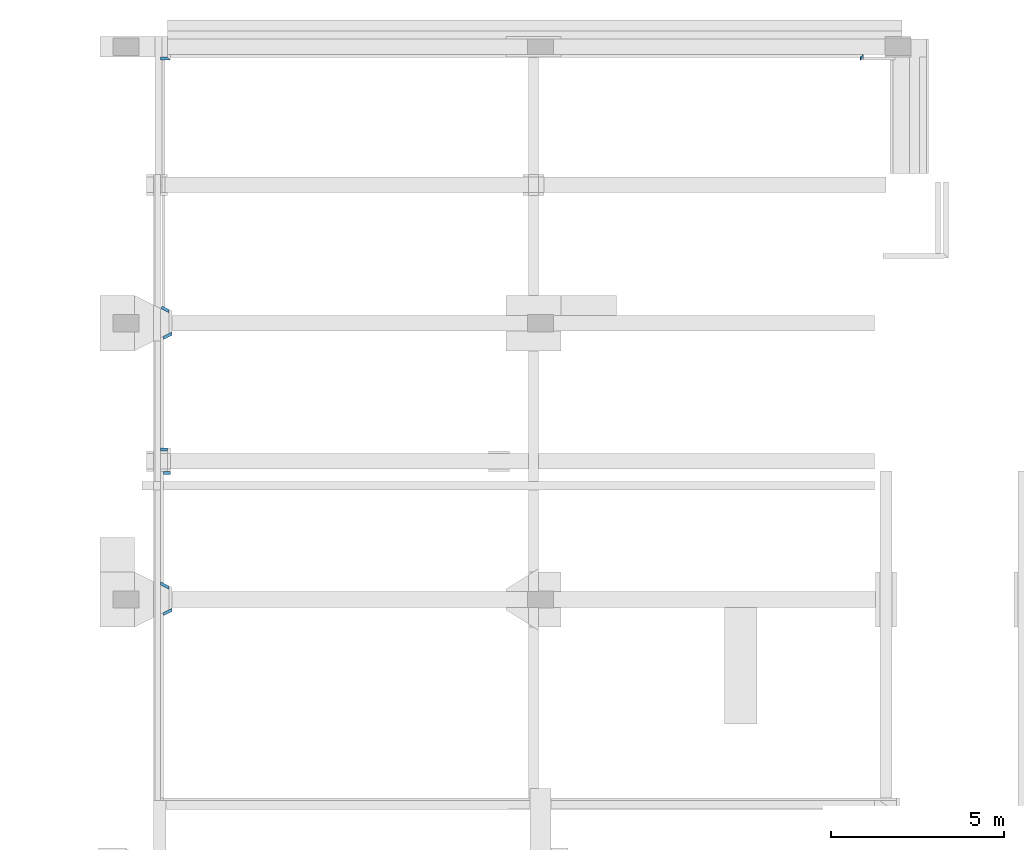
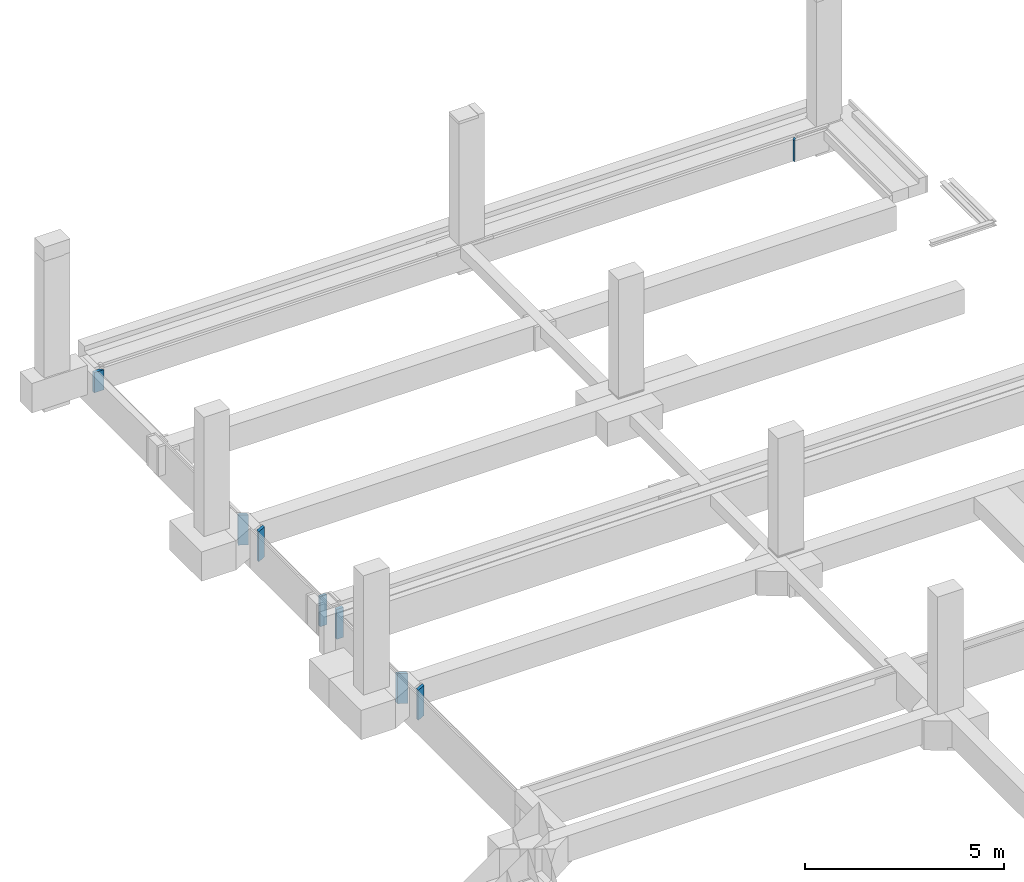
# One storey, part 15 of 17: 8 walls.
"""IFC2X3 building model written with IfcOpenShell, lengths in millimetres."""

from ifc_helpers import new_model, entity, si_unit, converted_unit, derived_unit, money_unit, direction, frame, origin_with_axes, place, context, subcontext, project, spatial, faceted_brep, material, type_object, element, save


model = new_model("IFC2X3")

# Units and contexts
model_context = context("Model", 3, precision=0.01, world=origin_with_axes(), true_north=direction((0.0, 1.0)))
body_context = subcontext(model_context, "Body", "Model", "MODEL_VIEW")
ifc_project = project(units=[si_unit("LENGTHUNIT", "METRE", prefix="MILLI"), si_unit("AREAUNIT", "SQUARE_METRE"), si_unit("VOLUMEUNIT", "CUBIC_METRE"), converted_unit("PLANEANGLEUNIT", "DEGREE", entity("IfcPlaneAngleMeasure", 0.0174532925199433), si_unit("PLANEANGLEUNIT", "RADIAN"), dimensions=[0, 0, 0, 0, 0, 0, 0]), money_unit("EUR"), converted_unit("TIMEUNIT", "Year", entity("IfcTimeMeasure", 31557600.0), si_unit("TIMEUNIT", "SECOND"), dimensions=[0, 0, 1, 0, 0, 0, 0]), si_unit("MASSUNIT", "GRAM", prefix="KILO"), si_unit("THERMODYNAMICTEMPERATUREUNIT", "DEGREE_CELSIUS"), si_unit("LUMINOUSINTENSITYUNIT", "LUMEN"), si_unit("ENERGYUNIT", "JOULE", prefix="MEGA"), derived_unit("THERMALCONDUCTANCEUNIT", [(si_unit("POWERUNIT", "WATT"), 1), (si_unit("LENGTHUNIT", "METRE"), -1), (si_unit("THERMODYNAMICTEMPERATUREUNIT", "KELVIN"), -1)]), derived_unit("SPECIFICHEATCAPACITYUNIT", [(si_unit("ENERGYUNIT", "JOULE"), 1), (si_unit("MASSUNIT", "GRAM", prefix="KILO"), -1), (si_unit("THERMODYNAMICTEMPERATUREUNIT", "KELVIN"), -1)]), derived_unit("MASSDENSITYUNIT", [(si_unit("MASSUNIT", "GRAM", prefix="KILO"), 1), (si_unit("VOLUMEUNIT", "CUBIC_METRE"), -1)])], contexts=[model_context])

# Site, building, storey
site_placement = place(None, origin_with_axes())
site = spatial("IfcSite", under=ifc_project, at=site_placement, Name="<site naam>", CompositionType="ELEMENT")
building_placement = place(site_placement, origin_with_axes())
building = spatial("IfcBuilding", under=site, at=building_placement, Name="<Naam gebouw>", CompositionType="ELEMENT")
storey_placement = place(building_placement, frame((0.0, 0.0, -1100.0), z_axis=(0.0, 0.0, 1.0), x_axis=(1.0, 0.0, 0.0)))
storey = spatial("IfcBuildingStorey", under=building, at=storey_placement, Name="-1 Fundering", CompositionType="ELEMENT", Elevation=-1100.0)

# Walls
ifc_material = material(Name="ALG - ISOLATIE")
wall_type = type_object("IfcWallType", Name="ALG - ISOLATIE 85", PredefinedType="NOTDEFINED")
wall_1_placement = place(storey_placement, frame((-8759.082491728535, 8300.000000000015, -100.0000000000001), z_axis=(0.0, 0.0, 1.0), x_axis=(-0.8944273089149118, 0.4472133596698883, 0.0)))
element("IfcWall", 1, at=wall_1_placement, inside=storey, type_object=wall_type, material=ifc_material, Name="21_Binnenwand_ALG", context=body_context, shape_type="Brep", body=[
    faceted_brep([(42.4999719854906, -84.99999999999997, 0.0), (311.853898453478, -84.99999999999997, 0.0), (311.853898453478, -84.99999999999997, 920.0000000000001), (42.4999719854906, -84.99999999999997, 920.0000000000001), (0.0, 0.0, 0.0), (269.3539264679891, 0.0, 0.0), (269.3539264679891, 0.0, 920.0000000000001), (0.0, 0.0, 920.0000000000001)], [[[0, 1, 2, 3]], [[0, 4, 5, 1]], [[1, 5, 6, 2]], [[2, 6, 7, 3]], [[4, 0, 3, 7]], [[5, 4, 7, 6]]]),
])
wall_2_placement = place(storey_placement, frame((-8999.999999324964, 11700.00007911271, -100.0000000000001), z_axis=(0.0, 0.0, 1.0), x_axis=(0.9999999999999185, -4.038061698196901e-07, 0.0)))
element("IfcWall", 2, at=wall_2_placement, inside=storey, type_object=wall_type, material=ifc_material, Name="21_Binnenwand_ALG", context=body_context, shape_type="Brep", body=[
    faceted_brep([(280.9175082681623, 0.0, 0.0), (85.00000000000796, 0.0, 0.0), (85.00000000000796, 0.0, 920.0000000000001), (280.9175082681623, 0.0, 920.0000000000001), (85.00003432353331, -85.00000000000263, 0.0), (280.9175425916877, -85.00000000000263, 0.0), (85.00003432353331, -85.00000000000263, 920.0000000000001), (280.9175425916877, -85.00000000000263, 920.0000000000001)], [[[0, 1, 2, 3]], [[4, 1, 0, 5]], [[1, 4, 6, 2]], [[2, 6, 7, 3]], [[5, 0, 3, 7]], [[4, 5, 7, 6]]]),
])
wall_3_placement = place(storey_placement, frame((-8804.082491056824, 12300.00000000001, -100.0000000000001), z_axis=(0.0, 0.0, 1.0), x_axis=(-0.9999999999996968, -7.78800692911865e-07, 0.0)))
element("IfcWall", 3, at=wall_3_placement, inside=storey, type_object=wall_type, material=ifc_material, Name="21_Binnenwand_ALG", context=body_context, shape_type="Brep", body=[
    faceted_brep([(-6.619805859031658e-05, -85.00000000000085, 0.0), (195.9174420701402, -85.00000000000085, 0.0), (195.9174420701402, -85.00000000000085, 920.0000000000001), (-6.619805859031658e-05, -85.00000000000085, 920.0000000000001), (0.0, 0.0, 0.0), (195.9175082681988, 0.0, 0.0), (195.9175082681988, 0.0, 920.0000000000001), (0.0, 0.0, 920.0000000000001)], [[[0, 1, 2, 3]], [[0, 4, 5, 1]], [[1, 5, 6, 2]], [[2, 6, 7, 3]], [[4, 0, 3, 7]], [[5, 4, 7, 6]]]),
])
wall_4_placement = place(storey_placement, frame((-8999.999999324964, 15579.5412462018, -100.0000000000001), z_axis=(0.0, 0.0, 1.0), x_axis=(0.8944271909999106, 0.4472135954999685, 0.0)))
element("IfcWall", 4, at=wall_4_placement, inside=storey, type_object=wall_type, material=ifc_material, Name="21_Binnenwand_ALG", context=body_context, shape_type="Brep", body=[
    faceted_brep([(364.3868510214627, 0.0, 0.0), (95.0328890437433, 0.0, 0.0), (95.0328890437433, 0.0, 920.0000000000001), (364.3868510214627, 0.0, 920.0000000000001), (52.53288904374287, -84.9999999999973, 0.0), (321.8868510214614, -84.9999999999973, 0.0), (52.53288904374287, -84.9999999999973, 920.0000000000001), (321.8868510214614, -84.9999999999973, 920.0000000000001)], [[[0, 1, 2, 3]], [[4, 1, 0, 5]], [[1, 4, 6, 2]], [[2, 6, 7, 3]], [[5, 0, 3, 7]], [[4, 5, 7, 6]]]),
])
wall_5_placement = place(storey_placement, frame((-8759.082491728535, 16300.00000000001, -100.0000000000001), z_axis=(0.0, 0.0, 1.0), x_axis=(-0.8944271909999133, 0.4472135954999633, 0.0)))
element("IfcWall", 5, at=wall_5_placement, inside=storey, type_object=wall_type, material=ifc_material, Name="21_Binnenwand_ALG", context=body_context, shape_type="Brep", body=[
    faceted_brep([(42.50000000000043, -85.00000000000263, 0.0), (269.3539619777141, -85.00000000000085, 0.0), (269.3539619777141, -85.00000000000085, 920.0000000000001), (42.50000000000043, -85.00000000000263, 920.0000000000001), (0.0, 0.0, 0.0), (269.3539619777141, 0.0, 0.0), (269.3539619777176, 0.0, 920.0000000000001), (0.0, 0.0, 920.0000000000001)], [[[0, 1, 2, 3]], [[1, 0, 4, 5]], [[1, 5, 6, 2]], [[2, 6, 7, 3]], [[4, 0, 3, 7]], [[5, 4, 7, 6]]]),
])
wall_6_placement = place(storey_placement, frame((-8999.999999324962, 7579.541143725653, -100.0000000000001), z_axis=(0.0, 0.0, 1.0), x_axis=(0.894427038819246, 0.4472138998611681, 0.0)))
element("IfcWall", 6, at=wall_6_placement, inside=storey, type_object=wall_type, material=ifc_material, Name="21_Binnenwand_ALG", context=body_context, shape_type="Brep", body=[
    faceted_brep([(364.3869130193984, 0.0, 0.0), (95.03290521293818, 0.0, 0.0), (95.03290521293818, 0.0, 920.0000000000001), (364.3869130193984, 0.0, 920.0000000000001), (52.53286905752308, -85.00000000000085, 0.0), (321.8868768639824, -85.00000000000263, 0.0), (52.53286905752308, -85.00000000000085, 920.0000000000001), (321.8868768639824, -85.00000000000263, 920.0000000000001)], [[[0, 1, 2, 3]], [[4, 1, 0, 5]], [[1, 4, 6, 2]], [[2, 6, 7, 3]], [[5, 0, 3, 7]], [[4, 5, 7, 6]]]),
])
wall_7_placement = place(storey_placement, frame((-8999.99999932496, 23700.00000000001, 199.9999928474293), z_axis=(0.0, 0.0, 1.0), x_axis=(1.0, 0.0, 0.0)))
element("IfcWall", 7, at=wall_7_placement, inside=storey, type_object=wall_type, material=ifc_material, Name="21_Binnenwand_ALG", context=body_context, shape_type="Brep", body=[
    faceted_brep([(280.9175082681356, -85.00000000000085, 0.0), (195.9175082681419, 0.0, 0.0), (195.9175082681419, 0.0, 620.0000071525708), (280.9175082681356, -85.00000000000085, 620.0000071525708), (0.0, -85.00000000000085, 0.0), (0.0, 0.0, 0.0), (0.0, 0.0, 620.0000071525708), (0.0, -85.00000000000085, 620.0000071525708)], [[[0, 1, 2, 3]], [[0, 4, 5, 1]], [[1, 5, 6, 2]], [[2, 6, 7, 3]], [[4, 0, 3, 7]], [[5, 4, 7, 6]]]),
])
wall_8_placement = place(storey_placement, frame((11345.91750827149, 23775.00000000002, 150.0), z_axis=(0.0, 0.0, 1.0), x_axis=(0.0, -1.0, 0.0)))
element("IfcWall", 8, at=wall_8_placement, inside=storey, type_object=wall_type, material=ifc_material, Name="21_Binnenwand_ALG", context=body_context, shape_type="Brep", body=[
    faceted_brep([(85.0000000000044, -85.00000000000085, 20.00000000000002), (85.0000000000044, -85.00000000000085, 670.0), (0.0, 0.0, 670.0), (0.0, 0.0, 0.0), (75.0000000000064, -75.00000000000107, 0.0), (75.0000000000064, -74.99999999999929, 20.00000000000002), (160.0000000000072, -85.00000000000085, 20.00000000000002), (160.0000000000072, -85.00000000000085, 670.0), (75.00000000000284, 0.0, 670.0), (75.00000000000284, 0.0, 20.00000000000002), (75.0000000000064, 0.0, 0.0)], [[[0, 1, 2, 3, 4, 5]], [[6, 7, 1, 0]], [[7, 8, 2, 1]], [[3, 2, 8, 9, 10]], [[3, 10, 4]], [[10, 9, 5, 4]], [[0, 5, 9, 6]], [[9, 8, 7, 6]]]),
])

save(model, "model.ifc")
